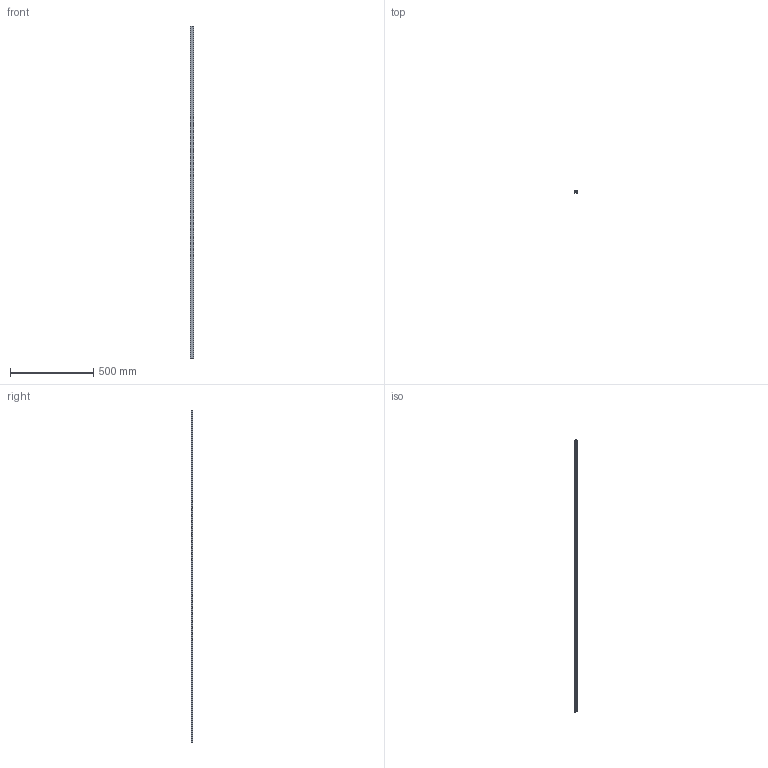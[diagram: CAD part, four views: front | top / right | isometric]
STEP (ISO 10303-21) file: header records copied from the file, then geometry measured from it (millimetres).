
FILE_DESCRIPTION (( 'STEP AP203' ), '1' );
FILE_NAME ('ChannelLine_D_24.STEP', '2024-11-29T04:58:26', ( '' ), ( '' ), 'SwSTEP 2.0', 'SolidWorks 2023', '' );
FILE_SCHEMA (( 'CONFIG_CONTROL_DESIGN' ));
Length unit declared in the file: millimetre
Products named in the file (3): ChannelLine_D_24; 2535701_Pr2444_Al-Profil_ChannelLine_D_L=2m; 2561501_Pr2444_K-Profil_ChannelLine_B-E_neu_Art. Nr. 25.776.98 L=2000 mm
Assembly tree (2 placements, depth 2):
  ChannelLine_D_24
    2535701_Pr2444_Al-Profil_ChannelLine_D_L=2m
    2561501_Pr2444_K-Profil_ChannelLine_B-E_neu_Art. Nr. 25.776.98 L=2000 mm
Bounding box: 20.5 x 10.18 x 2000 mm (x, y, z)
Volume: 189551.1 mm3; surface area: 260722.6 mm2
Topology: 2 solids, 2 shells, 77 faces, 219 edges, 146 vertices
Faces by surface type: cylinder 42, plane 35
Entity records: 2842 total; most frequent: DIRECTION 467, CARTESIAN_POINT 447, ORIENTED_EDGE 438, EDGE_CURVE 219, AXIS2_PLACEMENT_3D 166, VERTEX_POINT 146, LINE 135, VECTOR 135
